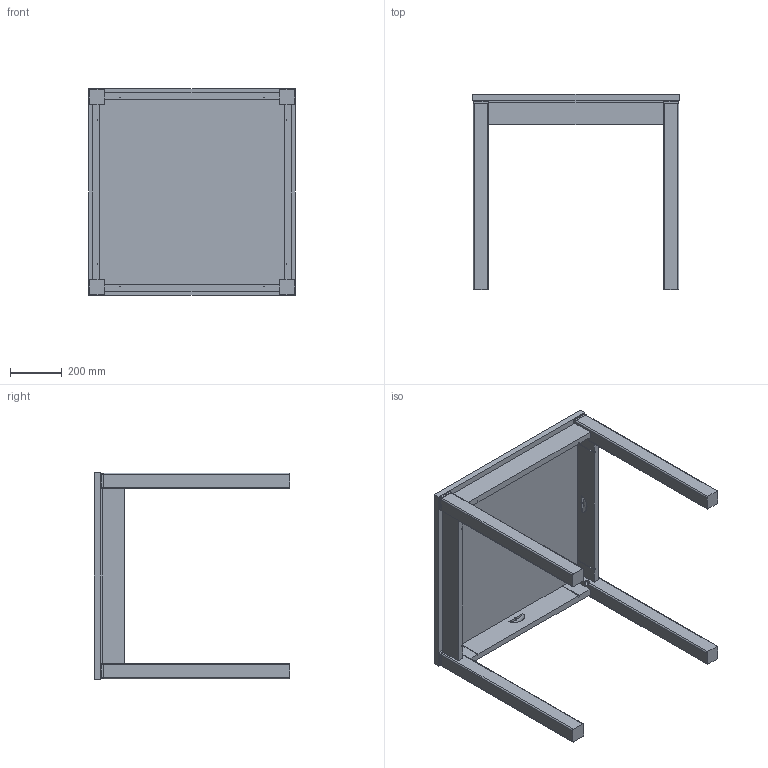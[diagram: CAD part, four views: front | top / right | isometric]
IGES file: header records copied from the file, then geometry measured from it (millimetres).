
Start section: SolidWorks IGES file using analytic representation for surfaces
Global section: file name: C:\Users\emanuel.JMS\Desktop\Alvito_800_800.IGS; native system: SolidWorks 2014; preprocessor: SolidWorks 2014; author: Emanuel; date: 140617.085719; units: millimetre
Bounding box: 800 x 755 x 800 mm (x, y, z)
Surface area: 2744257.4 mm2 (no closed solid volume)
Topology: 0 solids, 0 shells, 280 faces, 3778 edges, 3778 vertices
Faces by surface type: bspline 176, revolution 104
